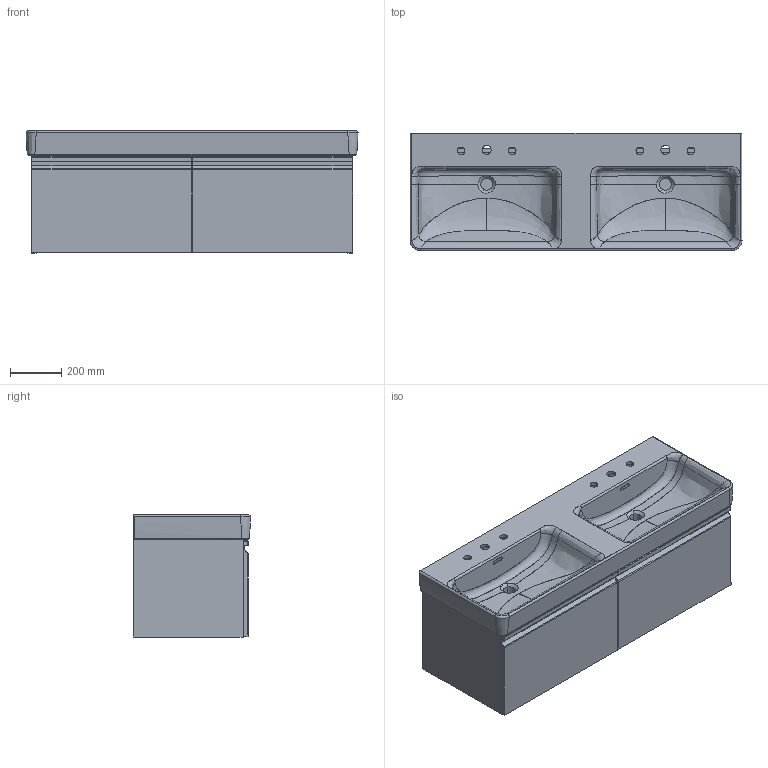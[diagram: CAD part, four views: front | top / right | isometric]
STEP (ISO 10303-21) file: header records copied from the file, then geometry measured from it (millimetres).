
FILE_DESCRIPTION(/* description */ (''),/* implementation_level */ '2;1');
FILE_NAME(/* name */ 'C:\Users\User33\Desktop\Pro S\3D01_483571.stp',/* time_stamp */ '2018-05-10T13:27:26+02:00',/* author */ ('User33'),/* organization */ (''),/* preprocessor_version */ 'ST-DEVELOPER v16.13',/* originating_system */ 'Autodesk Inventor 2018',/* authorisation */ '');
FILE_SCHEMA (('AUTOMOTIVE_DESIGN { 1 0 10303 214 3 1 1 }'));
Products named in the file (34): Assieme2; Parte70; Parte76; Parte78; Parte80; Parte86; Parte88; Parte90; Parte92; Parte94; Parte96; Parte98; Parte100; Parte102; Parte104; Parte106; Parte124; Parte126; Parte128; Parte130; Parte132; Parte134; Parte136; Parte138; Parte140; Parte142; Parte144; Parte150; Parte152; Parte154; Parte156; Parte162; Parte188; Parte190
Assembly tree (33 placements, depth 2):
  Assieme2
    Parte70
    Parte76
    Parte78
    Parte80
    Parte86
    Parte88
    Parte90
    Parte92
    Parte94
    Parte96
    Parte98
    Parte100
    Parte102
    Parte104
    Parte106
    Parte124
    Parte126
    Parte128
    Parte130
    Parte132
    Parte134
    Parte136
    Parte138
    Parte140
    Parte142
    Parte144
    Parte150
    Parte152
    Parte154
    Parte156
    Parte162
    Parte188
    Parte190
Bounding box: 1300.76 x 460.25 x 478 mm (x, y, z)
Volume: 39654319.7 mm3; surface area: 7212393.7 mm2
Topology: 32 solids, 758 shells, 1714 faces, 6017 edges, 5131 vertices
Faces by surface type: plane 787, cylinder 448, bspline 373, torus 47, sphere 41, cone 18
Full cylindrical faces by diameter (mm): 2.5 x4, 4 x16, 4.1 x4, 5.1 x4, 6 x12, 7.2 x4, 10 x4, 12 x4, 12.5 x4
Entity records: 232524 total; most frequent: CARTESIAN_POINT 180663, DIRECTION 9442, ORIENTED_EDGE 8437, EDGE_CURVE 5933, VERTEX_POINT 5121, AXIS2_PLACEMENT_3D 3309, LINE 2824, VECTOR 2824
